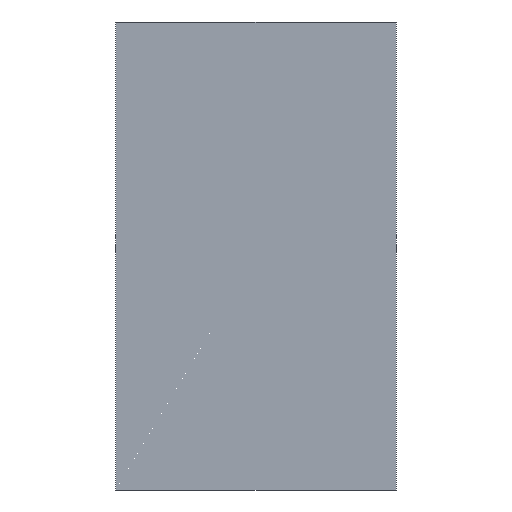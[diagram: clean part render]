
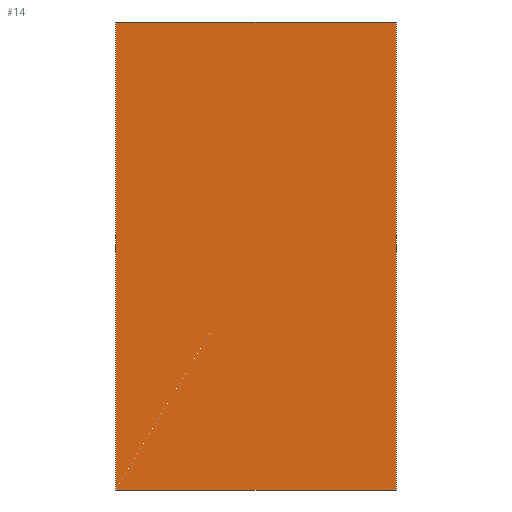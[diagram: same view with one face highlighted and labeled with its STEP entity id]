
A CAD part, front view. The second image highlights one B-rep face of the part: STEP entity #14.
In plain terms, the highlighted planar face has unit normal (0, -1, 0).
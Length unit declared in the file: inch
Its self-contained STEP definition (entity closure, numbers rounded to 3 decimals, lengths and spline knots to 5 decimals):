
#14=ADVANCED_FACE('',(#20),#88,.T.);
#20=FACE_OUTER_BOUND('',#26,.T.);
#26=EDGE_LOOP('',(#32,#33,#34,#35));
#32=ORIENTED_EDGE('',*,*,#56,.T.);
#33=ORIENTED_EDGE('',*,*,#65,.T.);
#34=ORIENTED_EDGE('',*,*,#60,.F.);
#35=ORIENTED_EDGE('',*,*,#64,.F.);
#56=EDGE_CURVE('',#80,#81,#68,.T.);
#60=EDGE_CURVE('',#84,#85,#72,.T.);
#64=EDGE_CURVE('',#80,#84,#76,.T.);
#65=EDGE_CURVE('',#81,#85,#77,.T.);
#68=B_SPLINE_CURVE_WITH_KNOTS('',1,(#217,#218),.UNSPECIFIED.,.F.,.F.,(2,
2),(0.,6.),.UNSPECIFIED.);
#72=B_SPLINE_CURVE_WITH_KNOTS('',1,(#225,#226),.UNSPECIFIED.,.F.,.F.,(2,
2),(0.,6.),.UNSPECIFIED.);
#76=B_SPLINE_CURVE_WITH_KNOTS('',1,(#233,#234),.UNSPECIFIED.,.F.,.F.,(2,
2),(0.,10.),.UNSPECIFIED.);
#77=B_SPLINE_CURVE_WITH_KNOTS('',1,(#235,#236),.UNSPECIFIED.,.F.,.F.,(2,
2),(0.,10.),.UNSPECIFIED.);
#80=VERTEX_POINT('',#209);
#81=VERTEX_POINT('',#210);
#84=VERTEX_POINT('',#213);
#85=VERTEX_POINT('',#214);
#88=PLANE('',#185);
#185=AXIS2_PLACEMENT_3D('',#203,#194,$);
#194=DIRECTION('',(0.,-1.,0.));
#203=CARTESIAN_POINT('',(0.,0.,0.));
#209=CARTESIAN_POINT('',(0.,0.,0.));
#210=CARTESIAN_POINT('',(6.,0.,0.));
#213=CARTESIAN_POINT('',(0.,0.,10.));
#214=CARTESIAN_POINT('',(6.,0.,10.));
#217=CARTESIAN_POINT('',(0.,0.,0.));
#218=CARTESIAN_POINT('',(6.,0.,0.));
#225=CARTESIAN_POINT('',(0.,0.,10.));
#226=CARTESIAN_POINT('',(6.,0.,10.));
#233=CARTESIAN_POINT('',(0.,0.,0.));
#234=CARTESIAN_POINT('',(0.,0.,10.));
#235=CARTESIAN_POINT('',(6.,0.,0.));
#236=CARTESIAN_POINT('',(6.,0.,10.));
